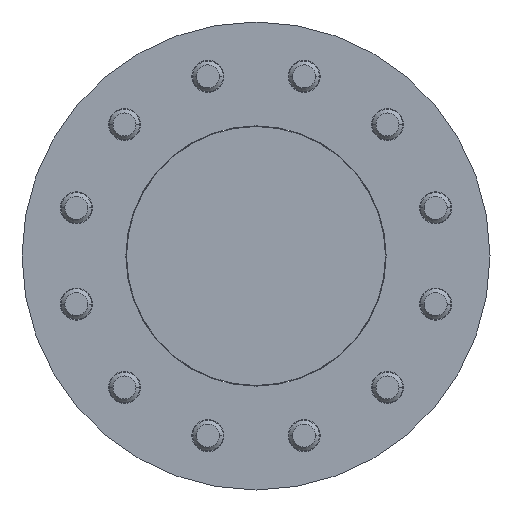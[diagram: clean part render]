
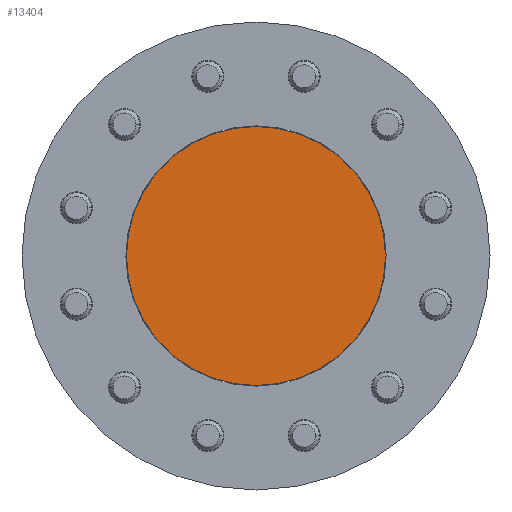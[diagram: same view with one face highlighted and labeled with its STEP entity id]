
A CAD part, front view. The second image highlights one B-rep face of the part: STEP entity #13404.
In plain terms, the highlighted planar face has unit normal (0, -1, 0).
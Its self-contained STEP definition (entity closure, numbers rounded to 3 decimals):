
#13145=CARTESIAN_POINT('',(0.,0.,0.));
#13146=DIRECTION('',(0.,-1.,0.));
#13147=DIRECTION('',(1.,0.,0.));
#13148=AXIS2_PLACEMENT_3D('',#13145,#13146,#13147);
#13186=CARTESIAN_POINT('',(0.,0.,0.));
#13187=DIRECTION('',(0.,1.,0.));
#13188=DIRECTION('',(1.,0.,0.));
#13189=AXIS2_PLACEMENT_3D('',#13186,#13187,#13188);
#13212=CARTESIAN_POINT('',(202.,0.,0.));
#13213=CARTESIAN_POINT('',(-202.,0.,0.));
#13214=VERTEX_POINT('',#13212);
#13215=VERTEX_POINT('',#13213);
#13395=CARTESIAN_POINT('',(0.,0.,0.));
#13396=DIRECTION('',(0.,-1.,0.));
#13397=DIRECTION('',(-1.,0.,0.));
#13398=AXIS2_PLACEMENT_3D('',#13395,#13396,#13397);
#13399=PLANE('',#13398);
#13400=ORIENTED_EDGE('',*,*,#13376,.T.);
#13401=ORIENTED_EDGE('',*,*,#13333,.F.);
#13402=EDGE_LOOP('',(#13400,#13401));
#13403=FACE_OUTER_BOUND('',#13402,.F.);
#13404=ADVANCED_FACE('',(#13403),#13399,.T.);
#13149=CIRCLE('',#13148,202.);
#13190=CIRCLE('',#13189,202.);
#13333=EDGE_CURVE('',#13214,#13215,#13149,.T.);
#13376=EDGE_CURVE('',#13214,#13215,#13190,.T.);
